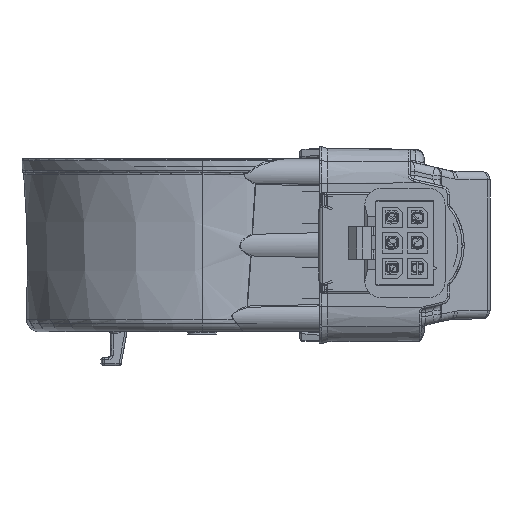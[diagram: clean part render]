
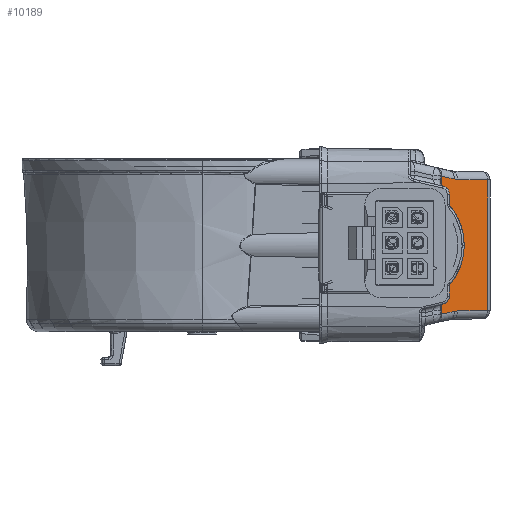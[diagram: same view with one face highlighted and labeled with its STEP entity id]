
A CAD part, left-side view. The second image highlights one B-rep face of the part: STEP entity #10189.
In plain terms, the highlighted planar face has unit normal (-0.707, -0.707, 0).
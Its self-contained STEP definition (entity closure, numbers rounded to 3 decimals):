
#378 = LINE ( 'NONE', #85820, #19292 ) ;
#534 = VERTEX_POINT ( 'NONE', #30335 ) ;
#575 = CARTESIAN_POINT ( 'NONE',  ( 8.073, -28.334, 4.813 ) ) ;
#1433 = VERTEX_POINT ( 'NONE', #2954 ) ;
#2192 = FACE_OUTER_BOUND ( 'NONE', #73878, .T. ) ;
#2702 = DIRECTION ( 'NONE',  ( 0., 0., -1. ) ) ;
#2954 = CARTESIAN_POINT ( 'NONE',  ( 8.073, -28.334, 13.687 ) ) ;
#4830 = VERTEX_POINT ( 'NONE', #21005 ) ;
#5346 = CARTESIAN_POINT ( 'NONE',  ( 13.507, -33.768, -94.499 ) ) ;
#5532 = CARTESIAN_POINT ( 'NONE',  ( 8.073, -28.334, 1.08 ) ) ;
#5596 = CARTESIAN_POINT ( 'NONE',  ( 9.669, -29.929, 10.878 ) ) ;
#7766 = ORIENTED_EDGE ( 'NONE', *, *, #54109, .F. ) ;
#8464 = CARTESIAN_POINT ( 'NONE',  ( 13.507, -33.768, 1.535 ) ) ;
#10189 = ADVANCED_FACE ( 'NONE', ( #2192 ), #57607, .F. ) ;
#10516 = ORIENTED_EDGE ( 'NONE', *, *, #37143, .F. ) ;
#11974 = EDGE_CURVE ( 'NONE', #27239, #84365, #91320, .T. ) ;
#15225 = VERTEX_POINT ( 'NONE', #575 ) ;
#16037 = EDGE_CURVE ( 'NONE', #1433, #97944, #26024, .T. ) ;
#16130 = DIRECTION ( 'NONE',  ( -0.707, 0.707, -0.012 ) ) ;
#16593 = CARTESIAN_POINT ( 'NONE',  ( 9.699, -29.959, 17.046 ) ) ;
#17235 = CARTESIAN_POINT ( 'NONE',  ( 13.507, -33.768, 16.965 ) ) ;
#19292 = VECTOR ( 'NONE', #16130, 1000. ) ;
#19554 = EDGE_CURVE ( 'NONE', #97944, #73230, #59859, .T. ) ;
#20414 = VECTOR ( 'NONE', #92140, 1000. ) ;
#21005 = CARTESIAN_POINT ( 'NONE',  ( 9.976, -30.237, 1.474 ) ) ;
#21880 = CARTESIAN_POINT ( 'NONE',  ( 8.073, -28.334, 13.687 ) ) ;
#22109 = VECTOR ( 'NONE', #93597, 1000. ) ;
#24240 = CARTESIAN_POINT ( 'NONE',  ( 9.837, -30.098, 17.029 ) ) ;
#25051 = VERTEX_POINT ( 'NONE', #5532 ) ;
#26024 = LINE ( 'NONE', #57045, #100278 ) ;
#26126 = ORIENTED_EDGE ( 'NONE', *, *, #45076, .F. ) ;
#27239 = VERTEX_POINT ( 'NONE', #17235 ) ;
#27575 = CARTESIAN_POINT ( 'NONE',  ( 36.284, -56.545, -94.499 ) ) ;
#27759 = CARTESIAN_POINT ( 'NONE',  ( 9.976, -30.237, 1.474 ) ) ;
#28503 = ORIENTED_EDGE ( 'NONE', *, *, #19554, .F. ) ;
#30335 = CARTESIAN_POINT ( 'NONE',  ( 9.976, -30.237, 17.026 ) ) ;
#30743 = ORIENTED_EDGE ( 'NONE', *, *, #16037, .F. ) ;
#31197 = B_SPLINE_CURVE_WITH_KNOTS ( 'NONE', 3,
 ( #86287, #16593, #24240, #46611 ),
 .UNSPECIFIED., .F., .F.,
 ( 4, 4 ),
 ( 0., 1. ),
 .UNSPECIFIED. ) ;
#35043 = ORIENTED_EDGE ( 'NONE', *, *, #68665, .F. ) ;
#36119 = DIRECTION ( 'NONE',  ( 0., 0., 1. ) ) ;
#36151 = LINE ( 'NONE', #99760, #20414 ) ;
#36771 = ORIENTED_EDGE ( 'NONE', *, *, #74843, .F. ) ;
#37143 = EDGE_CURVE ( 'NONE', #15225, #1433, #96784, .T. ) ;
#44023 = CARTESIAN_POINT ( 'NONE',  ( 9.699, -29.959, 1.454 ) ) ;
#44095 = DIRECTION ( 'NONE',  ( 0.698, -0.698, -0.161 ) ) ;
#45076 = EDGE_CURVE ( 'NONE', #80868, #25051, #36151, .T. ) ;
#46092 = EDGE_CURVE ( 'NONE', #25051, #15225, #53415, .T. ) ;
#46611 = CARTESIAN_POINT ( 'NONE',  ( 9.976, -30.237, 17.026 ) ) ;
#49371 = CARTESIAN_POINT ( 'NONE',  ( 9.669, -29.929, 7.622 ) ) ;
#49960 = DIRECTION ( 'NONE',  ( 0.707, 0.707, 0. ) ) ;
#53415 = LINE ( 'NONE', #83944, #22109 ) ;
#53468 = CARTESIAN_POINT ( 'NONE',  ( 9.563, -29.823, 17.077 ) ) ;
#54109 = EDGE_CURVE ( 'NONE', #73230, #534, #31197, .T. ) ;
#54871 = DIRECTION ( 'NONE',  ( 0.707, -0.707, -0.012 ) ) ;
#56200 = VECTOR ( 'NONE', #75041, 1000. ) ;
#57025 = CARTESIAN_POINT ( 'NONE',  ( 8.629, -28.89, 5.408 ) ) ;
#57045 = CARTESIAN_POINT ( 'NONE',  ( 8.073, -28.334, -94.499 ) ) ;
#57520 = CARTESIAN_POINT ( 'NONE',  ( 8.073, -28.334, 4.813 ) ) ;
#57607 = PLANE ( 'NONE',  #70673 ) ;
#59859 = LINE ( 'NONE', #98028, #99032 ) ;
#65165 = CARTESIAN_POINT ( 'NONE',  ( 9.071, -29.332, 6.108 ) ) ;
#68061 = CARTESIAN_POINT ( 'NONE',  ( 9.563, -29.823, 1.423 ) ) ;
#68665 = EDGE_CURVE ( 'NONE', #534, #27239, #93045, .T. ) ;
#70673 = AXIS2_PLACEMENT_3D ( 'NONE', #27575, #49960, #2702 ) ;
#71168 = CARTESIAN_POINT ( 'NONE',  ( 9.976, -30.237, 17.026 ) ) ;
#72848 = VECTOR ( 'NONE', #54871, 1000. ) ;
#73230 = VERTEX_POINT ( 'NONE', #53468 ) ;
#73878 = EDGE_LOOP ( 'NONE', ( #35043, #7766, #28503, #30743, #10516, #74356, #26126, #36771, #78562, #93836 ) ) ;
#74356 = ORIENTED_EDGE ( 'NONE', *, *, #46092, .F. ) ;
#74843 = EDGE_CURVE ( 'NONE', #4830, #80868, #83095, .T. ) ;
#75041 = DIRECTION ( 'NONE',  ( 0., 0., -1. ) ) ;
#78562 = ORIENTED_EDGE ( 'NONE', *, *, #96886, .F. ) ;
#80868 = VERTEX_POINT ( 'NONE', #68061 ) ;
#82205 = CARTESIAN_POINT ( 'NONE',  ( 9.837, -30.098, 1.471 ) ) ;
#83095 = B_SPLINE_CURVE_WITH_KNOTS ( 'NONE', 3,
 ( #27759, #82205, #44023, #96478 ),
 .UNSPECIFIED., .F., .F.,
 ( 4, 4 ),
 ( 0., 1. ),
 .UNSPECIFIED. ) ;
#83944 = CARTESIAN_POINT ( 'NONE',  ( 8.073, -28.334, -94.499 ) ) ;
#84365 = VERTEX_POINT ( 'NONE', #8464 ) ;
#85820 = CARTESIAN_POINT ( 'NONE',  ( 13.507, -33.768, 1.535 ) ) ;
#86287 = CARTESIAN_POINT ( 'NONE',  ( 9.563, -29.823, 17.077 ) ) ;
#88562 = CARTESIAN_POINT ( 'NONE',  ( 9.823, -30.084, 10.064 ) ) ;
#91320 = LINE ( 'NONE', #5346, #56200 ) ;
#91568 = CARTESIAN_POINT ( 'NONE',  ( 8.629, -28.89, 13.092 ) ) ;
#92140 = DIRECTION ( 'NONE',  ( -0.698, 0.698, -0.161 ) ) ;
#93045 = LINE ( 'NONE', #71168, #72848 ) ;
#93597 = DIRECTION ( 'NONE',  ( 0., 0., 1. ) ) ;
#93739 = CARTESIAN_POINT ( 'NONE',  ( 8.073, -28.334, 17.42 ) ) ;
#93836 = ORIENTED_EDGE ( 'NONE', *, *, #11974, .F. ) ;
#96225 = CARTESIAN_POINT ( 'NONE',  ( 9.823, -30.084, 8.436 ) ) ;
#96478 = CARTESIAN_POINT ( 'NONE',  ( 9.563, -29.823, 1.423 ) ) ;
#96784 = B_SPLINE_CURVE_WITH_KNOTS ( 'NONE', 3,
 ( #57520, #57025, #65165, #49371, #96225, #88562, #5596, #98186, #91568, #21880 ),
 .UNSPECIFIED., .F., .F.,
 ( 4, 2, 2, 2, 4 ),
 ( 0., 0.25, 0.5, 0.75, 1. ),
 .UNSPECIFIED. ) ;
#96886 = EDGE_CURVE ( 'NONE', #84365, #4830, #378, .T. ) ;
#97944 = VERTEX_POINT ( 'NONE', #93739 ) ;
#98028 = CARTESIAN_POINT ( 'NONE',  ( 48.1, -68.361, 8.21 ) ) ;
#98186 = CARTESIAN_POINT ( 'NONE',  ( 9.071, -29.332, 12.392 ) ) ;
#99032 = VECTOR ( 'NONE', #44095, 1000. ) ;
#99760 = CARTESIAN_POINT ( 'NONE',  ( 9.563, -29.823, 1.423 ) ) ;
#100278 = VECTOR ( 'NONE', #36119, 1000. ) ;
